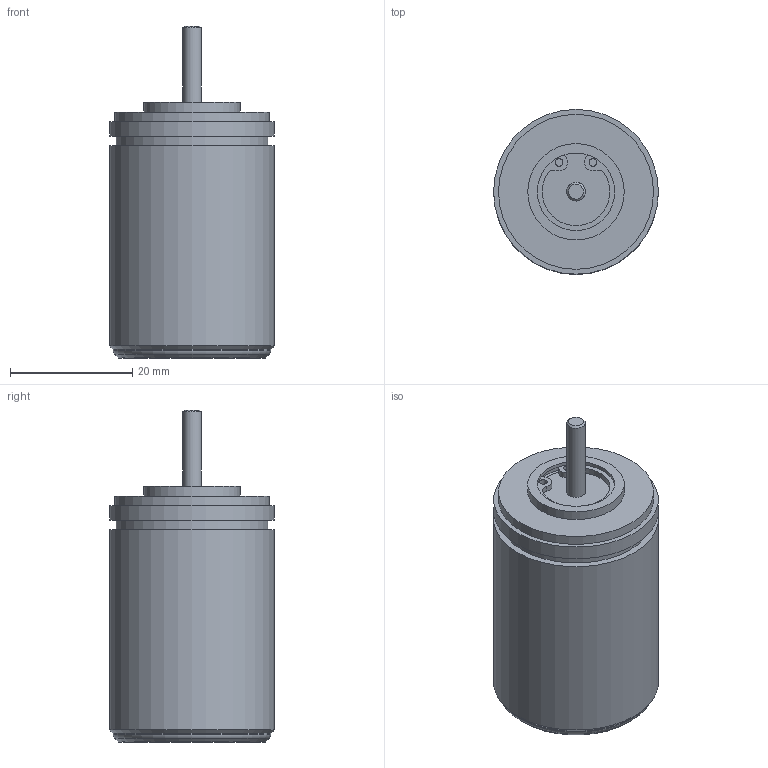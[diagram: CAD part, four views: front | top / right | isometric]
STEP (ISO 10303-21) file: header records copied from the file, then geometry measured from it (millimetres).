
FILE_DESCRIPTION(/* description */ ('Alibre Inc.'),/* implementation_level */ '2;1');
FILE_NAME(/* name */ 'export0',/* time_stamp */ '2017-07-28T15:02:59-04:00',/* author */ (''),/* organization */ (''),/* preprocessor_version */ 'ST-DEVELOPER v14',/* originating_system */ 'Alibre',/* authorisation */ '');
FILE_SCHEMA (('CONFIG_CONTROL_DESIGN'));
Length unit declared in the file: centimetre
Products named in the file (7): ID_1; ID_2; ID_3; ID_4; ID_5; ID_6
Bounding box: 27 x 27 x 54.41 mm (x, y, z)
Volume: 24969.7 mm3; surface area: 8653.6 mm2
Topology: 8 solids, 8 shells, 76 faces, 133 edges, 86 vertices
Faces by surface type: cylinder 40, plane 29, cone 5, torus 2
Full cylindrical faces by diameter (mm): 1.27 x4, 3.048 x2, 3.175 x2, 3.2 x2, 4 x1, 12.7 x7, 13.65 x2, 15 x1, 15.8 x1, 24.9 x1, 25.14 x1, 25.4 x1, 25.806 x1, 27 x2
Entity records: 2100 total; most frequent: DIRECTION 267, CARTESIAN_POINT 216, ORIENTED_EDGE 144, AXIS2_PLACEMENT_3D 144, EDGE_LOOP 116, FACE_BOUND 116, PERSON_AND_ORGANIZATION 72, EDGE_CURVE 72
